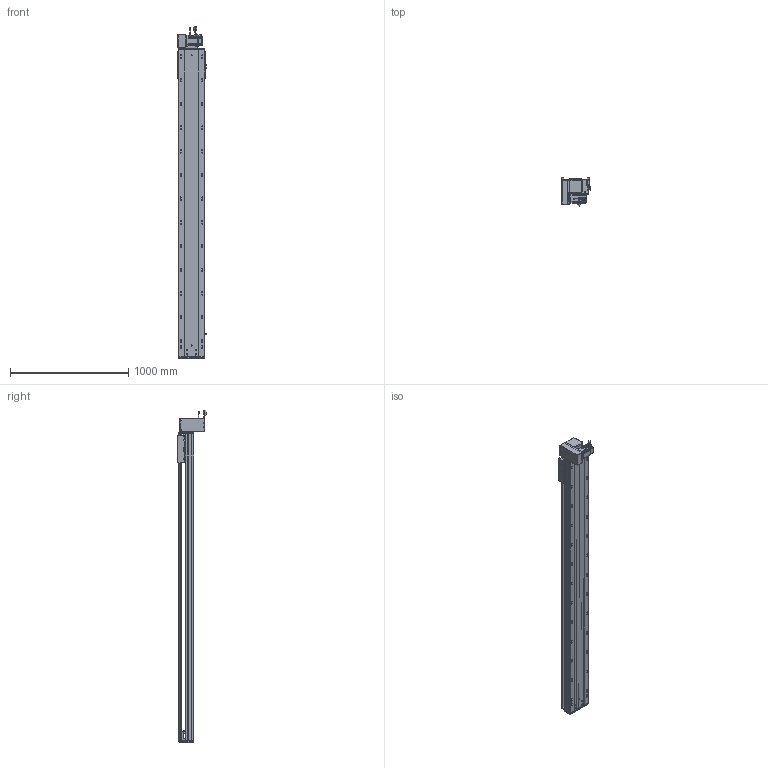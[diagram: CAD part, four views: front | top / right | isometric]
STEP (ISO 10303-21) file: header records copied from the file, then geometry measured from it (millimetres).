
FILE_DESCRIPTION (( 'STEP AP203' ), '1' );
FILE_NAME ('RY220-T-300-DL.SLDASM_2250.step', '2022-07-25T07:54:27', ( '' ), ( '' ), 'SwSTEP 2.0', 'SolidWorks 2016', '' );
FILE_SCHEMA (( 'CONFIG_CONTROL_DESIGN' ));
Length unit declared in the file: millimetre
Products named in the file (14): RY220-同步轮副支撑座6304×2; RY220-T-300-DL.SLDASM_2250; RY220翋肮祭謫釱; RY220圉猾敕々湍臏賑輸; 滅袉蝶18-15; 110A-T-肮祭謫釱傷裔; RY220-T-蛌殏萇儂假蚾啣(750W); RY220-T-湍謫欶(鍼踢); RY220-T-300-奻裔啣_2250; 覜茼ん672; RY220翋肮祭謫裔啣; RY220-俋离672覜茼んえ; RY220-T菁釱-300_2250; 怢湛750W_ECMA-CX0807ES
Assembly tree (18 placements, depth 2):
  RY220-T-300-DL.SLDASM_2250
    RY220-T菁釱-300_2250
    RY220翋肮祭謫釱
    覜茼ん672  x3
    RY220圉猾敕々湍臏賑輸
    RY220-T-300-奻裔啣_2250
    RY220-俋离672覜茼んえ
    滅袉蝶18-15  x3
    RY220翋肮祭謫裔啣  x2
    110A-T-肮祭謫釱傷裔
    怢湛750W_ECMA-CX0807ES
    RY220-T-湍謫欶(鍼踢)
    RY220-T-蛌殏萇儂假蚾啣(750W)
    RY220-同步轮副支撑座6304×2
Bounding box: 239.7 x 240.74 x 2803.27 mm (x, y, z)
Volume: 20346024.5 mm3; surface area: 6218000.6 mm2
Topology: 19 solids, 19 shells, 2890 faces, 7991 edges, 5024 vertices
Faces by surface type: cylinder 1406, plane 1069, cone 333, bspline 56, sphere 16, torus 10
Entity records: 96371 total; most frequent: CARTESIAN_POINT 27289, ORIENTED_EDGE 14298, DIRECTION 13720, EDGE_CURVE 7149, AXIS2_PLACEMENT_3D 4924, VERTEX_POINT 4648, LINE 3872, VECTOR 3872
